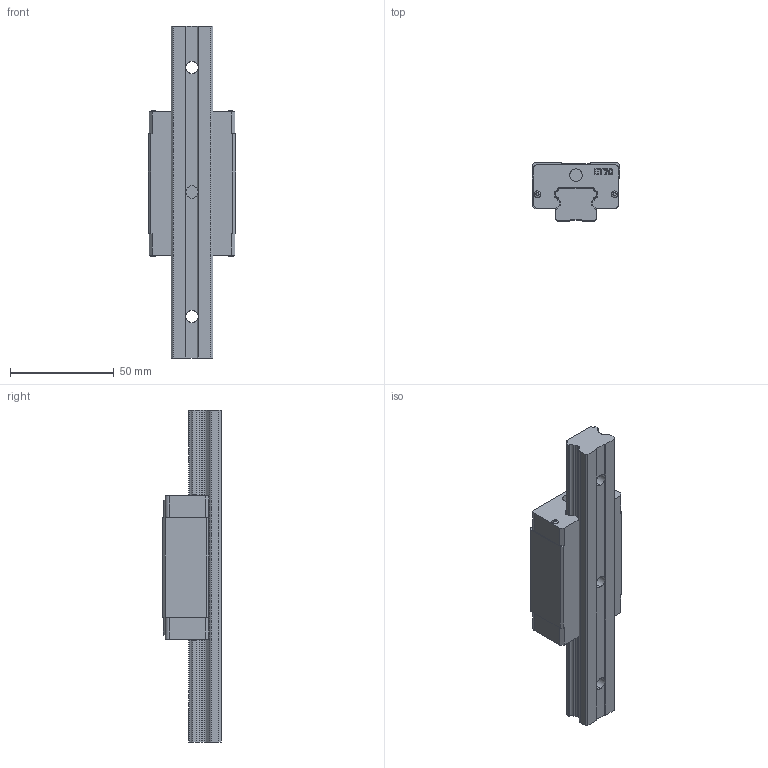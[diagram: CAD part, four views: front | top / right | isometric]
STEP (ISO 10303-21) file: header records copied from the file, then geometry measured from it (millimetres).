
FILE_DESCRIPTION (( 'STEP AP214' ), '1' );
FILE_NAME ('7.1065 Lineaarikelkka ETH20CA.STEP', '2026-03-13T08:34:22', ( '' ), ( '' ), 'SwSTEP 2.0', 'SolidWorks 2025', '' );
FILE_SCHEMA (( 'AUTOMOTIVE_DESIGN' ));
Length unit declared in the file: millimetre
Products named in the file (3): ETH20CA_BLOCK; ET20_RAIL; 7.1065 Lineaarikelkka ETH20CA
Assembly tree (2 placements, depth 2):
  7.1065 Lineaarikelkka ETH20CA
    ETH20CA_BLOCK
    ET20_RAIL
Bounding box: 42 x 28 x 160 mm (x, y, z)
Volume: 91965.5 mm3; surface area: 25820.6 mm2
Topology: 2 solids, 2 shells, 323 faces, 885 edges, 589 vertices
Faces by surface type: plane 181, cylinder 89, bspline 41, cone 8, torus 4
Entity records: 17245 total; most frequent: CARTESIAN_POINT 5654, ORIENTED_EDGE 1770, DIRECTION 1472, EDGE_CURVE 885, VERTEX_POINT 589, LINE 554, VECTOR 554, AXIS2_PLACEMENT_3D 459
